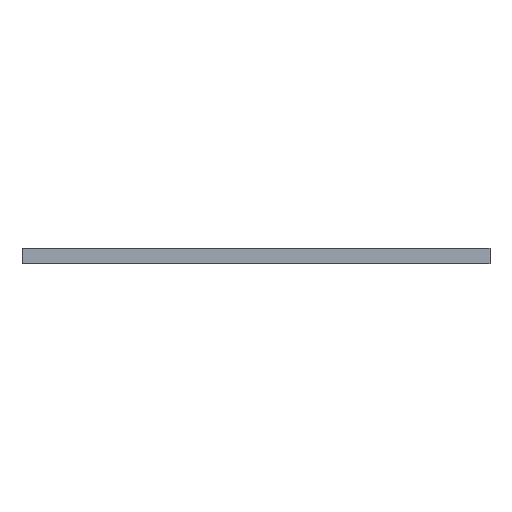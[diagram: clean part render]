
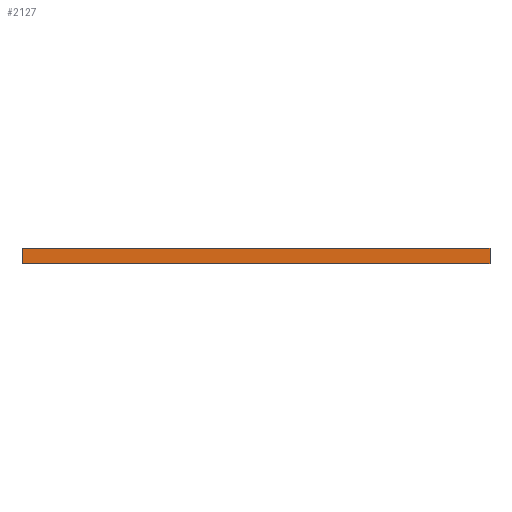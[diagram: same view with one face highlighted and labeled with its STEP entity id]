
A CAD part, front view. The second image highlights one B-rep face of the part: STEP entity #2127.
In plain terms, the highlighted planar face has unit normal (0, -1, 0).
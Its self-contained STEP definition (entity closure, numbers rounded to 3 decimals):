
#114 = CARTESIAN_POINT ( 'NONE',  ( -225., -299., 7.5 ) ) ;
#334 = DIRECTION ( 'NONE',  ( 1., 0., 0. ) ) ;
#384 = PLANE ( 'NONE',  #1871 ) ;
#435 = EDGE_CURVE ( 'NONE', #2506, #557, #2707, .T. ) ;
#471 = DIRECTION ( 'NONE',  ( 0., 0., -1. ) ) ;
#499 = EDGE_CURVE ( 'NONE', #2727, #2713, #1027, .T. ) ;
#557 = VERTEX_POINT ( 'NONE', #747 ) ;
#702 = CARTESIAN_POINT ( 'NONE',  ( -225., -299., 7.5 ) ) ;
#708 = EDGE_CURVE ( 'NONE', #557, #2713, #1631, .T. ) ;
#747 = CARTESIAN_POINT ( 'NONE',  ( -225., -299., -7.5 ) ) ;
#858 = VECTOR ( 'NONE', #2654, 1000. ) ;
#891 = CARTESIAN_POINT ( 'NONE',  ( -225., -299., 7.5 ) ) ;
#1020 = ORIENTED_EDGE ( 'NONE', *, *, #2105, .F. ) ;
#1027 = LINE ( 'NONE', #2785, #1074 ) ;
#1074 = VECTOR ( 'NONE', #471, 1000. ) ;
#1141 = CARTESIAN_POINT ( 'NONE',  ( -225., -299., 7.5 ) ) ;
#1170 = DIRECTION ( 'NONE',  ( 0., 1., 0. ) ) ;
#1515 = CARTESIAN_POINT ( 'NONE',  ( 225., -299., -7.5 ) ) ;
#1631 = LINE ( 'NONE', #2618, #858 ) ;
#1657 = EDGE_LOOP ( 'NONE', ( #2445, #1745, #1020, #2833 ) ) ;
#1745 = ORIENTED_EDGE ( 'NONE', *, *, #499, .F. ) ;
#1802 = CARTESIAN_POINT ( 'NONE',  ( 225., -299., 7.5 ) ) ;
#1871 = AXIS2_PLACEMENT_3D ( 'NONE', #114, #1170, #2190 ) ;
#2105 = EDGE_CURVE ( 'NONE', #2506, #2727, #2376, .T. ) ;
#2127 = ADVANCED_FACE ( 'NONE', ( #2426 ), #384, .F. ) ;
#2190 = DIRECTION ( 'NONE',  ( 0., 0., 1. ) ) ;
#2196 = VECTOR ( 'NONE', #2756, 1000. ) ;
#2376 = LINE ( 'NONE', #1141, #3133 ) ;
#2426 = FACE_OUTER_BOUND ( 'NONE', #1657, .T. ) ;
#2445 = ORIENTED_EDGE ( 'NONE', *, *, #708, .T. ) ;
#2506 = VERTEX_POINT ( 'NONE', #891 ) ;
#2618 = CARTESIAN_POINT ( 'NONE',  ( -225., -299., -7.5 ) ) ;
#2654 = DIRECTION ( 'NONE',  ( 1., 0., 0. ) ) ;
#2707 = LINE ( 'NONE', #702, #2196 ) ;
#2713 = VERTEX_POINT ( 'NONE', #1515 ) ;
#2727 = VERTEX_POINT ( 'NONE', #1802 ) ;
#2756 = DIRECTION ( 'NONE',  ( 0., 0., -1. ) ) ;
#2785 = CARTESIAN_POINT ( 'NONE',  ( 225., -299., 7.5 ) ) ;
#2833 = ORIENTED_EDGE ( 'NONE', *, *, #435, .T. ) ;
#3133 = VECTOR ( 'NONE', #334, 1000. ) ;
